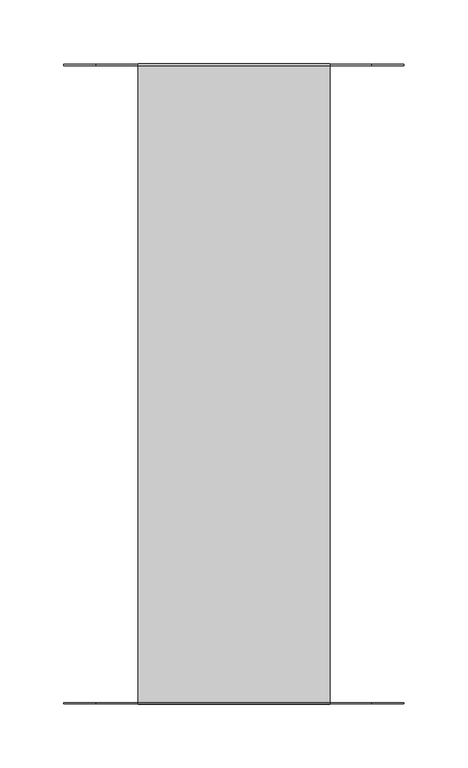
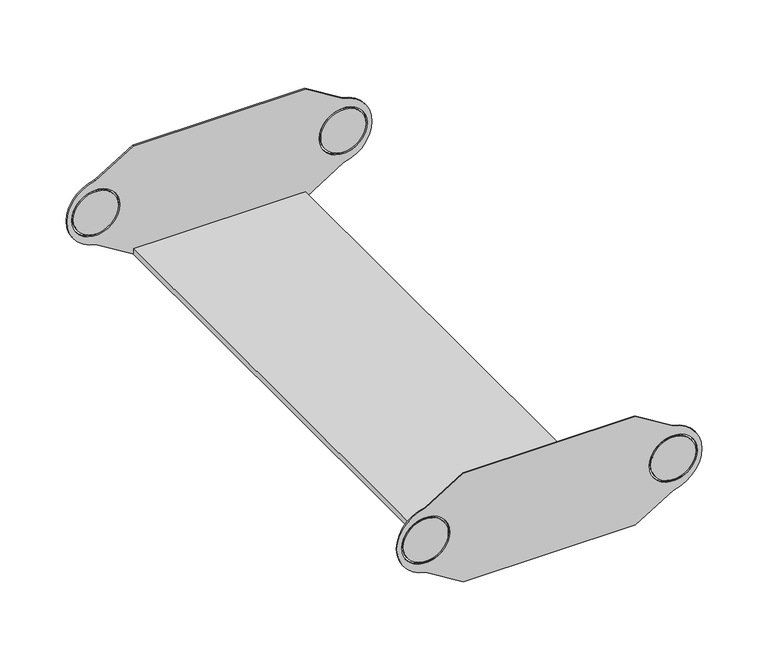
"""IFC4 building model written with IfcOpenShell, lengths in millimetres: cable carrier fitting geometry, BAKS_BEND_Adjustable vertical bend element_EL : ELP_H100."""

import ifcopenshell
import ifcopenshell.guid

model = None  # the IFC model being written
_history = None  # IfcOwnerHistory: only IFC2X3 demands one
_inside = {}  # id of a spatial element -> (the spatial element, [elements in it])
_under = {}  # id of a project, library or spatial element -> (it, [spatial elements below it])
_declared = {}  # id of a project -> (the project, [libraries it declares])
_typed = {}  # id of a type object -> (the type object, [elements of that type])
_made_of = {}  # id of a material, layer set ... -> (it, [elements and type objects made of it])


def new_model(schema):
    """Start an empty IFC model of exactly this schema.

    Asked for "IFC4X3", IfcOpenShell would pick the latest addendum, in which some entities
    have other attributes; the version numbers below select the first issue.
    IFC2X3 requires an IfcOwnerHistory on every rooted entity: one is made here for all.
    """
    global model, _history
    if schema == "IFC4X3":
        model = ifcopenshell.file(schema_version=(4, 3, 0, 0))
    else:
        model = ifcopenshell.file(schema=schema)
    _inside.clear()
    _under.clear()
    _declared.clear()
    _typed.clear()
    _made_of.clear()
    _history = None
    if model.schema == "IFC2X3":
        org = make("IfcOrganization", Name="unknown")
        user = make(
            "IfcPersonAndOrganization",
            ThePerson=make("IfcPerson", FamilyName="unknown"),
            TheOrganization=org,
        )
        app = make(
            "IfcApplication",
            ApplicationDeveloper=org,
            Version="unknown",
            ApplicationFullName="unknown",
            ApplicationIdentifier="unknown",
        )
        _history = make(
            "IfcOwnerHistory",
            OwningUser=user,
            OwningApplication=app,
            ChangeAction="ADDED",
            CreationDate=0,
        )
    return model


def make(cls, **values):
    """One entity of the class cls with the attributes given. An attribute that is None is left unset."""
    return model.create_entity(
        cls, **{name: value for name, value in values.items() if value is not None}
    )


def rooted(cls, **values):
    """An entity with a GlobalId (a new one), such as an element, a storey or a relation."""
    return make(cls, GlobalId=ifcopenshell.guid.new(), OwnerHistory=_history, **values)


def si_unit(unit_type, name, prefix=None):
    """IfcSIUnit, for example si_unit("LENGTHUNIT", "METRE", prefix="MILLI")."""
    return make("IfcSIUnit", UnitType=unit_type, Prefix=prefix, Name=name)


def assignment(units):
    """IfcUnitAssignment: the units of a project."""
    return None if units is None else make("IfcUnitAssignment", Units=units)


def point(xyz):
    """IfcCartesianPoint."""
    return None if xyz is None else make("IfcCartesianPoint", Coordinates=xyz)


def direction(xyz):
    """IfcDirection."""
    return None if xyz is None else make("IfcDirection", DirectionRatios=xyz)


def frame(location, z_axis=None, x_axis=None):
    """IfcAxis2Placement3D, a coordinate frame: its origin and axes. An axis left out is left unset."""
    return make(
        "IfcAxis2Placement3D",
        Location=point(location),
        Axis=direction(z_axis),
        RefDirection=direction(x_axis),
    )


def frame_2d(location, x_axis=None):
    """IfcAxis2Placement2D, a coordinate frame in the plane: its origin and x axis."""
    return make(
        "IfcAxis2Placement2D", Location=point(location), RefDirection=direction(x_axis)
    )


def origin():
    """The frame at (0, 0, 0) with its axes left unset."""
    return frame((0.0, 0.0, 0.0))


def place(relative_to, where):
    """IfcLocalPlacement: puts the frame where relative to a parent placement (None: the world)."""
    return make(
        "IfcLocalPlacement", PlacementRelTo=relative_to, RelativePlacement=where
    )


def context(
    kind, dimensions, precision=None, world=None, true_north=None, identifier=None
):
    """IfcGeometricRepresentationContext, for example the 3D "Model" context."""
    return make(
        "IfcGeometricRepresentationContext",
        ContextIdentifier=identifier,
        ContextType=kind,
        CoordinateSpaceDimension=dimensions,
        Precision=precision,
        WorldCoordinateSystem=world,
        TrueNorth=true_north,
    )


def project(units=None, contexts=None):
    """IfcProject with its units and contexts."""
    return rooted(
        "IfcProject",
        Name="project",
        RepresentationContexts=contexts,
        UnitsInContext=assignment(units),
    )


def spatial(cls, under=None, at=None, **own):
    """A site, building, storey or space (cls), placed at a placement, below another one or the project."""
    s = rooted(cls, ObjectPlacement=at, **own)
    if under is not None:
        _under.setdefault(under.id(), (under, []))[1].append(s)
    return s


def polyline(points):
    """IfcPolyline through the points."""
    return make("IfcPolyline", Points=[point(p) for p in points])


def circle_curve(where, radius):
    """IfcCircle in the frame where."""
    return make("IfcCircle", Position=where, Radius=radius)


def trimmed(basis, trim1, trim2, sense, master):
    """IfcTrimmedCurve: the piece of a basis curve between two trims."""
    return make(
        "IfcTrimmedCurve",
        BasisCurve=basis,
        Trim1=trim1,
        Trim2=trim2,
        SenseAgreement=sense,
        MasterRepresentation=master,
    )


def segment(curve, same_sense, transition):
    """IfcCompositeCurveSegment."""
    return make(
        "IfcCompositeCurveSegment",
        Transition=transition,
        SameSense=same_sense,
        ParentCurve=curve,
    )


def composite_curve(segments, self_intersect=None):
    """IfcCompositeCurve: segments joined end to end."""
    return make("IfcCompositeCurve", Segments=segments, SelfIntersect=self_intersect)


def outline(outer, holes=None, kind="AREA"):
    """IfcArbitraryClosedProfileDef: a profile drawn as a closed curve; with holes, ...WithVoids."""
    if holes is None:
        return make("IfcArbitraryClosedProfileDef", ProfileType=kind, OuterCurve=outer)
    return make(
        "IfcArbitraryProfileDefWithVoids",
        ProfileType=kind,
        OuterCurve=outer,
        InnerCurves=holes,
    )


def extrude(swept, where, along, depth):
    """IfcExtrudedAreaSolid: the profile swept, set in the frame where, extruded along a direction by depth."""
    return make(
        "IfcExtrudedAreaSolid",
        SweptArea=swept,
        Position=where,
        ExtrudedDirection=direction(along),
        Depth=depth,
    )


def shape(context_of_items, identifier, shape_type, items):
    """IfcShapeRepresentation: the items that make up one representation, for example the "Body"."""
    return make(
        "IfcShapeRepresentation",
        ContextOfItems=context_of_items,
        RepresentationIdentifier=identifier,
        RepresentationType=shape_type,
        Items=items,
    )


def source(mapping_origin, context_of_items, identifier, shape_type, items):
    """IfcRepresentationMap: a shape defined once, which mapped items show again and again."""
    return make(
        "IfcRepresentationMap",
        MappingOrigin=mapping_origin,
        MappedRepresentation=shape(context_of_items, identifier, shape_type, items),
    )


def transform(
    local_origin,
    x_axis=None,
    y_axis=None,
    z_axis=None,
    scale=None,
    scale2=None,
    scale3=None,
    uniform=True,
):
    """IfcCartesianTransformationOperator3D, or its non-uniform kind. x_axis, y_axis, z_axis: its Axis1, 2, 3."""
    if uniform:
        return make(
            "IfcCartesianTransformationOperator3D",
            Axis1=direction(x_axis),
            Axis2=direction(y_axis),
            LocalOrigin=point(local_origin),
            Scale=scale,
            Axis3=direction(z_axis),
        )
    return make(
        "IfcCartesianTransformationOperator3DnonUniform",
        Axis1=direction(x_axis),
        Axis2=direction(y_axis),
        LocalOrigin=point(local_origin),
        Scale=scale,
        Axis3=direction(z_axis),
        Scale2=scale2,
        Scale3=scale3,
    )


def mapped(mapping_source, mapping_target):
    """IfcMappedItem: shows the shape of a source again, moved by a transform."""
    return make(
        "IfcMappedItem", MappingSource=mapping_source, MappingTarget=mapping_target
    )


def made_of(thing, what):
    """Note that an element or type object is made of a material, layer set ...; save() writes the relation."""
    if what is not None:
        _made_of.setdefault(what.id(), (what, []))[1].append(thing)
    return thing


def element(
    cls,
    number,
    at=None,
    inside=None,
    cuts=None,
    type_object=None,
    material=None,
    context=None,
    identifier="Body",
    shape_type=None,
    held_by="IfcProductDefinitionShape",
    body=None,
    shapes=None,
    **own,
):
    """One element of the class cls, such as IfcWall. Its Tag is "e" and its number.

    at: its placement. inside: the storey or other place that contains it. cuts: it is an
    opening in that element (IfcRelVoidsElement). A single representation is given by context,
    identifier, shape_type and body (its items); several are given by shapes. held_by: the class
    of the entity that holds the representations. save() writes the other relations.
    """
    e = rooted(cls, Tag="e%d" % number, ObjectPlacement=at, **own)
    if body is not None:
        shapes = [shape(context, identifier, shape_type, body)]
    if shapes is not None:
        e.Representation = make(held_by, Representations=shapes)
    if inside is not None:
        _inside.setdefault(inside.id(), (inside, []))[1].append(e)
    if cuts is not None:
        rooted(
            "IfcRelVoidsElement", RelatingBuildingElement=cuts, RelatedOpeningElement=e
        )
    if type_object is not None:
        _typed.setdefault(type_object.id(), (type_object, []))[1].append(e)
    return made_of(e, material)


def aggregate(whole, parts):
    """IfcRelAggregates: a whole, such as a stair, and the parts it consists of."""
    return rooted("IfcRelAggregates", RelatingObject=whole, RelatedObjects=parts)


def save(model, path):
    """Write the relations noted so far, then the file.

    IfcRelAggregates (storeys below a building ...), IfcRelContainedInSpatialStructure (elements
    in a storey), IfcRelDefinesByType, IfcRelAssociatesMaterial and IfcRelDeclares: one each for
    every whole, place, type object, material and project.
    """
    for whole, parts in _under.values():
        aggregate(whole, parts)
    for where, things in _inside.values():
        rooted(
            "IfcRelContainedInSpatialStructure",
            RelatedElements=things,
            RelatingStructure=where,
        )
    for kind, things in _typed.values():
        rooted("IfcRelDefinesByType", RelatedObjects=things, RelatingType=kind)
    for what, things in _made_of.values():
        rooted("IfcRelAssociatesMaterial", RelatedObjects=things, RelatingMaterial=what)
    for by, libraries in _declared.values():
        rooted("IfcRelDeclares", RelatingContext=by, RelatedDefinitions=libraries)
    model.write(path)


def cable_carrier_fitting_2246cbb3(model_context):
    return source(origin(), model_context, "Body", "SweptSolid", [
        extrude(outline(composite_curve([segment(trimmed(circle_curve(frame_2d((0.0, 25.0)), 19.5), [point((0.0, 5.5))], [point((0.0, 44.5))], False, "CARTESIAN"), True, "CONTINUOUS"), segment(trimmed(circle_curve(frame_2d((0.0, 25.0)), 19.5), [point((0.0, 44.5))], [point((0.0, 5.5))], False, "CARTESIAN"), True, "CONTINUOUS")], self_intersect=False)), frame((0.0, -250.0, 0.0), z_axis=(0.0, 1.0, 0.0), x_axis=(0.0, 0.0, 1.0)), (0.0, 0.0, 1.0), 1.0),
        extrude(outline(composite_curve([segment(trimmed(circle_curve(frame_2d((0.0, 241.0)), 19.5), [point((0.0, 221.5))], [point((0.0, 260.5))], False, "CARTESIAN"), True, "CONTINUOUS"), segment(trimmed(circle_curve(frame_2d((0.0, 241.0)), 19.5), [point((0.0, 260.5))], [point((0.0, 221.5))], False, "CARTESIAN"), True, "CONTINUOUS")], self_intersect=False)), frame((0.0, -250.0, 0.0), z_axis=(0.0, 1.0, 0.0), x_axis=(0.0, 0.0, 1.0)), (0.0, 0.0, 1.0), 1.0),
        extrude(outline(composite_curve([segment(polyline([(50.0, 208.0), (50.0, 58.0), (29.6036089, 25.1393069)]), True, "CONTINUOUS"), segment(trimmed(circle_curve(frame_2d((0.0, 30.0)), 30.0), [point((29.6036089, 25.1393069))], [point((-29.5803989, 25.0))], False, "CARTESIAN"), True, "CONTINUOUS"), segment(polyline([(-29.5803989, 25.0), (-50.0, 58.0), (-50.0, 208.0), (-29.5803989, 241.0)]), True, "CONTINUOUS"), segment(trimmed(circle_curve(frame_2d((0.0, 236.0)), 30.0), [point((-29.5803989, 241.0))], [point((29.6036089, 240.8606931))], False, "CARTESIAN"), True, "CONTINUOUS"), segment(polyline([(29.6036089, 240.8606931), (50.0, 208.0)]), True, "CONTINUOUS")], self_intersect=False), holes=[composite_curve([segment(trimmed(circle_curve(frame_2d((0.0, 25.0)), 21.0), [point((0.0, 4.0))], [point((0.0, 46.0))], True, "CARTESIAN"), True, "CONTINUOUS"), segment(trimmed(circle_curve(frame_2d((0.0, 25.0)), 21.0), [point((0.0, 46.0))], [point((0.0, 4.0))], True, "CARTESIAN"), True, "CONTINUOUS")], self_intersect=False), composite_curve([segment(trimmed(circle_curve(frame_2d((0.0, 241.0)), 21.0), [point((0.0, 220.0))], [point((0.0, 262.0))], True, "CARTESIAN"), True, "CONTINUOUS"), segment(trimmed(circle_curve(frame_2d((0.0, 241.0)), 21.0), [point((0.0, 262.0))], [point((0.0, 220.0))], True, "CARTESIAN"), True, "CONTINUOUS")], self_intersect=False)]), frame((0.0, -250.0, 0.0), z_axis=(0.0, 1.0, 0.0), x_axis=(0.0, 0.0, 1.0)), (0.0, 0.0, 1.0), 1.0),
        extrude(outline(polyline([(208.0, -250.0), (58.0, -250.0), (58.0, 250.0), (208.0, 250.0), (208.0, -250.0)])), frame((0.0, 0.0, -50.0), z_axis=(0.0, 0.0, 1.0), x_axis=(1.0, 0.0, 0.0)), (0.0, 0.0, 1.0), 5.0),
        extrude(outline(composite_curve([segment(polyline([(50.0, 208.0), (50.0, 58.0), (29.6036089, 25.1393069)]), True, "CONTINUOUS"), segment(trimmed(circle_curve(frame_2d((0.0, 30.0)), 30.0), [point((29.6036089, 25.1393069))], [point((-29.5803989, 25.0))], False, "CARTESIAN"), True, "CONTINUOUS"), segment(polyline([(-29.5803989, 25.0), (-50.0, 58.0), (-50.0, 208.0), (-29.5803989, 241.0)]), True, "CONTINUOUS"), segment(trimmed(circle_curve(frame_2d((0.0, 236.0)), 30.0), [point((-29.5803989, 241.0))], [point((29.6036089, 240.8606931))], False, "CARTESIAN"), True, "CONTINUOUS"), segment(polyline([(29.6036089, 240.8606931), (50.0, 208.0)]), True, "CONTINUOUS")], self_intersect=False), holes=[composite_curve([segment(trimmed(circle_curve(frame_2d((0.0, 25.0)), 21.0), [point((0.0, 4.0))], [point((0.0, 46.0))], True, "CARTESIAN"), True, "CONTINUOUS"), segment(trimmed(circle_curve(frame_2d((0.0, 25.0)), 21.0), [point((0.0, 46.0))], [point((0.0, 4.0))], True, "CARTESIAN"), True, "CONTINUOUS")], self_intersect=False), composite_curve([segment(trimmed(circle_curve(frame_2d((0.0, 241.0)), 21.0), [point((0.0, 220.0))], [point((0.0, 262.0))], True, "CARTESIAN"), True, "CONTINUOUS"), segment(trimmed(circle_curve(frame_2d((0.0, 241.0)), 21.0), [point((0.0, 262.0))], [point((0.0, 220.0))], True, "CARTESIAN"), True, "CONTINUOUS")], self_intersect=False)]), frame((0.0, 248.5, 0.0), z_axis=(0.0, 1.0, 0.0), x_axis=(0.0, 0.0, 1.0)), (0.0, 0.0, 1.0), 1.5),
        extrude(outline(composite_curve([segment(trimmed(circle_curve(frame_2d((0.0, 25.0)), 19.5), [point((0.0, 5.5))], [point((0.0, 44.5))], False, "CARTESIAN"), True, "CONTINUOUS"), segment(trimmed(circle_curve(frame_2d((0.0, 25.0)), 19.5), [point((0.0, 44.5))], [point((0.0, 5.5))], False, "CARTESIAN"), True, "CONTINUOUS")], self_intersect=False)), frame((0.0, 248.5, 0.0), z_axis=(0.0, 1.0, 0.0), x_axis=(0.0, 0.0, 1.0)), (0.0, 0.0, 1.0), 1.5),
        extrude(outline(composite_curve([segment(trimmed(circle_curve(frame_2d((0.0, 241.0)), 19.5), [point((0.0, 221.5))], [point((0.0, 260.5))], False, "CARTESIAN"), True, "CONTINUOUS"), segment(trimmed(circle_curve(frame_2d((0.0, 241.0)), 19.5), [point((0.0, 260.5))], [point((0.0, 221.5))], False, "CARTESIAN"), True, "CONTINUOUS")], self_intersect=False)), frame((0.0, 248.5, 0.0), z_axis=(0.0, 1.0, 0.0), x_axis=(0.0, 0.0, 1.0)), (0.0, 0.0, 1.0), 1.5),
    ])


if __name__ == "__main__":
    model = new_model("IFC4")
    model_context = context("Model", 3, world=origin())
    ifc_project = project(units=[si_unit("LENGTHUNIT", "METRE", prefix="MILLI")], contexts=[model_context])
    site = spatial("IfcSite", under=ifc_project)
    building = spatial("IfcBuilding", under=site)
    placement = place(None, origin())
    cable_carrier_fitting_shape = cable_carrier_fitting_2246cbb3(model_context)
    element("IfcCableCarrierFitting", 1, ObjectType="BAKS_BEND_Adjustable vertical bend element_EL : ELP_H100", at=placement, inside=building, context=model_context, shape_type="MappedRepresentation", body=[
        mapped(cable_carrier_fitting_shape, transform((0.0, 0.0, 0.0), x_axis=(1.0, 0.0, 0.0), y_axis=(0.0, 1.0, 0.0), z_axis=(0.0, 0.0, 1.0))),
    ])
    save(model, "model.ifc")
